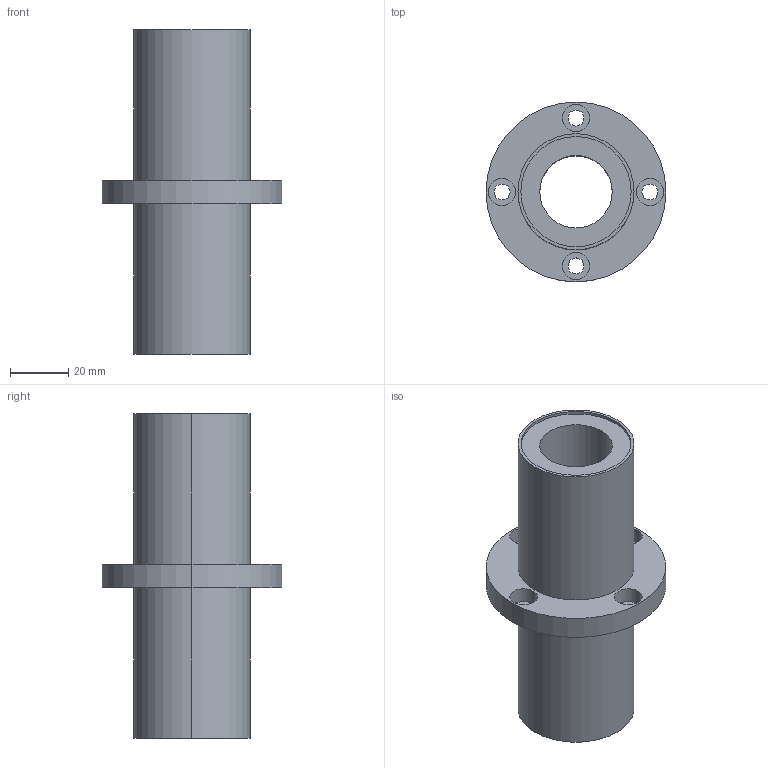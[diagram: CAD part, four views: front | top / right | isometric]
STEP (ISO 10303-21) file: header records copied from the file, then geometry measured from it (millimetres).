
FILE_DESCRIPTION((''),'2;1');
FILE_NAME('C:\Documents and Settings\ｿﾀﾀ蠑ｷ1\ｹﾙﾅﾁ ﾈｭｸ饅\ｺﾎﾇｰﾆﾄﾀﾏ\ﾁｦﾇｰ\LMEFM__UU\LMEFM25UU.stp','2005-06-16T13:28:10',('ｿﾀﾀ蠑ｷ1'),(''),'Autodesk Inventor 9','Autodesk Inventor 9','');
FILE_SCHEMA(('AUTOMOTIVE_DESIGN { 1 0 10303 214 1 1 1 1 }'));
Length unit declared in the file: millimetre
Products named in the file (1): LMEFM__UU
Bounding box: 62 x 62 x 112 mm (x, y, z)
Volume: 96800.5 mm3; surface area: 29196 mm2
Topology: 1 solids, 1 shells, 38 faces, 84 edges, 56 vertices
Faces by surface type: bspline 20, cylinder 12, plane 6
Entity records: 1335 total; most frequent: CARTESIAN_POINT 463, DIRECTION 178, ORIENTED_EDGE 168, EDGE_CURVE 84, AXIS2_PLACEMENT_3D 75, VERTEX_POINT 56, CIRCLE 56, EDGE_LOOP 56
